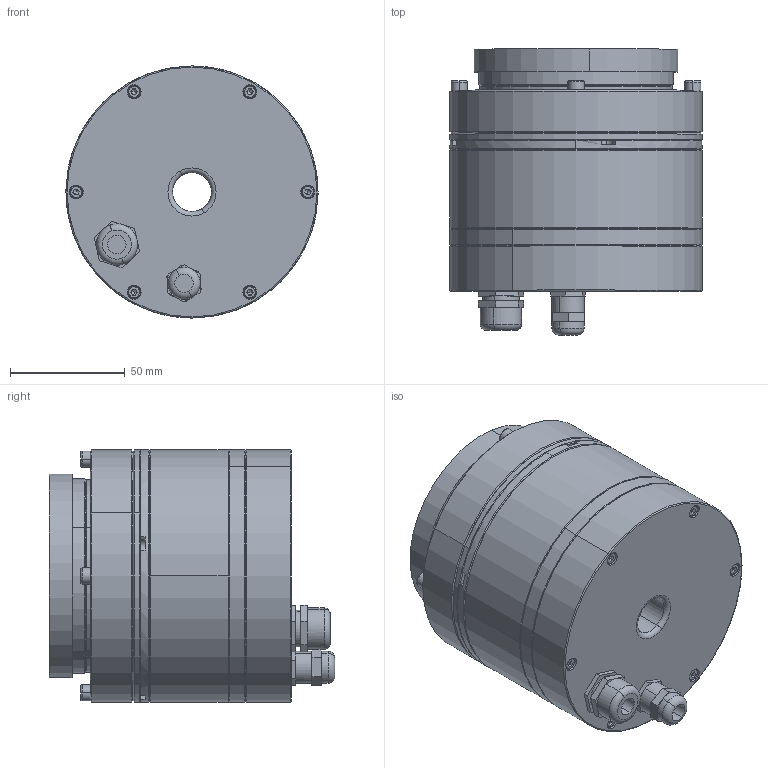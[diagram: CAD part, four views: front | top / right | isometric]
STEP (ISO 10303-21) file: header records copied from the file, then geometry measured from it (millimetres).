
FILE_DESCRIPTION (( 'STEP AP203' ), '1' );
FILE_NAME ('CMH-25-080-NB-BA-01-S2壽誹耀郪-俋楷.STEP', '2023-05-09T05:33:38', ( '' ), ( '' ), 'SwSTEP 2.0', 'SolidWorks 2020', '' );
FILE_SCHEMA (( 'CONFIG_CONTROL_DESIGN' ));
Length unit declared in the file: millimetre
Products named in the file (13): CMH25-91-04-S1萇儂褲极; hexagon socket head cap screws gb_GB_FASTENER_SCREWS_HSHCS M3X12-C; CMH-25-080-NB-BA-01-S2壽誹耀郪-俋楷; hexagon socket head cap screws gb_GB_FASTENER_SCREWS_HSHCS M4X40-N; M16萇擢滅阨諉芛; hexagon socket head cap screws gb_GB_FASTENER_SCREWS_HSHCS M3X30-C; CMH25-96-04-S1萇儂綴傷裔; CMH25-10-04-S2熬厒儂郪璃; CMH25-10-04-S2熬厒儂掛极; CMH25-92-04-S1晤鎢ん裔; M12萇擢滅阨諉芛; CMH25-13-04-S2狟褲极; CMH25-11-04-S2奻褲极
Assembly tree (23 placements, depth 3):
  CMH-25-080-NB-BA-01-S2壽誹耀郪-俋楷
    CMH25-91-04-S1萇儂褲极
    CMH25-96-04-S1萇儂綴傷裔
    CMH25-92-04-S1晤鎢ん裔
    M16萇擢滅阨諉芛
    hexagon socket head cap screws gb_GB_FASTENER_SCREWS_HSHCS M3X30-C  x6
    M12萇擢滅阨諉芛
    CMH25-10-04-S2熬厒儂郪璃
      CMH25-10-04-S2熬厒儂掛极
      CMH25-11-04-S2奻褲极
      CMH25-13-04-S2狟褲极
      hexagon socket head cap screws gb_GB_FASTENER_SCREWS_HSHCS M3X12-C  x4
    hexagon socket head cap screws gb_GB_FASTENER_SCREWS_HSHCS M4X40-N  x4
Bounding box: 110 x 124.7 x 110 mm (x, y, z)
Volume: 412715.9 mm3; surface area: 224521.5 mm2
Topology: 31 solids, 33 shells, 1637 faces, 3990 edges, 2416 vertices
Faces by surface type: cylinder 680, plane 464, cone 308, torus 133, bspline 52
Entity records: 43076 total; most frequent: CARTESIAN_POINT 8037, DIRECTION 7595, ORIENTED_EDGE 6508, EDGE_CURVE 3254, AXIS2_PLACEMENT_3D 3111, VERTEX_POINT 2053, CIRCLE 1774, EDGE_LOOP 1733
